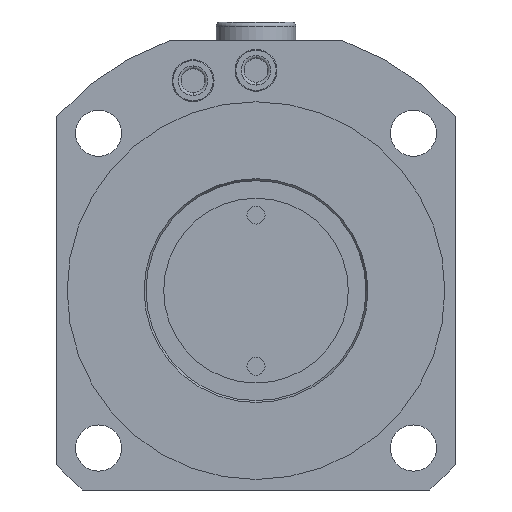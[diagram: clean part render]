
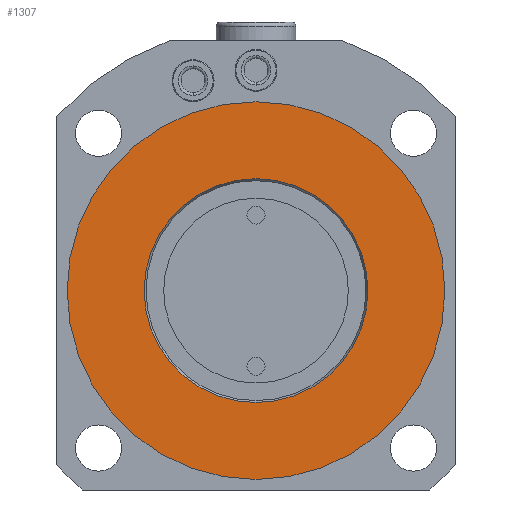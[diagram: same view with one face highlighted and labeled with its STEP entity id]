
A CAD part, front view. The second image highlights one B-rep face of the part: STEP entity #1307.
In plain terms, the highlighted planar face has unit normal (0, -1, 0).
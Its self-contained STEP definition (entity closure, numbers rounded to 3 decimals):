
#1035=PLANE('',#4392);
#1104=FACE_BOUND('',#1799,.T.);
#1105=FACE_BOUND('',#1800,.T.);
#1307=ADVANCED_FACE('',(#1104,#1105),#1035,.T.);
#1799=EDGE_LOOP('',(#2846,#2847));
#1800=EDGE_LOOP('',(#2848,#2849));
#2846=ORIENTED_EDGE('',*,*,#3659,.T.);
#2847=ORIENTED_EDGE('',*,*,#3755,.T.);
#2848=ORIENTED_EDGE('',*,*,#3653,.F.);
#2849=ORIENTED_EDGE('',*,*,#3756,.F.);
#3303=VERTEX_POINT('',#6272);
#3304=VERTEX_POINT('',#6273);
#3309=VERTEX_POINT('',#6284);
#3310=VERTEX_POINT('',#6286);
#3653=EDGE_CURVE('',#3303,#3304,#3966,.T.);
#3659=EDGE_CURVE('',#3310,#3309,#3969,.T.);
#3755=EDGE_CURVE('',#3309,#3310,#4017,.T.);
#3756=EDGE_CURVE('',#3304,#3303,#4018,.T.);
#3966=CIRCLE('',#4305,45.);
#3969=CIRCLE('',#4309,26.662);
#4017=CIRCLE('',#4389,26.662);
#4018=CIRCLE('',#4391,45.);
#4305=AXIS2_PLACEMENT_3D('',#6271,#5101,#5102);
#4309=AXIS2_PLACEMENT_3D('',#6285,#5112,#5113);
#4389=AXIS2_PLACEMENT_3D('',#6590,#5305,#5306);
#4391=AXIS2_PLACEMENT_3D('',#6592,#5309,#5310);
#4392=AXIS2_PLACEMENT_3D('',#6593,#5311,#5312);
#5101=DIRECTION('',(0.,1.,0.));
#5102=DIRECTION('',(-1.,0.,0.));
#5112=DIRECTION('',(0.,1.,0.));
#5113=DIRECTION('',(-1.,0.,0.));
#5305=DIRECTION('',(0.,1.,0.));
#5306=DIRECTION('',(-1.,0.,0.));
#5309=DIRECTION('',(0.,1.,0.));
#5310=DIRECTION('',(-1.,0.,0.));
#5311=DIRECTION('',(0.,-1.,0.));
#5312=DIRECTION('',(-1.,0.,0.));
#6271=CARTESIAN_POINT('',(0.,-128.,0.));
#6272=CARTESIAN_POINT('',(-45.,-128.,0.));
#6273=CARTESIAN_POINT('',(45.,-128.,0.));
#6284=CARTESIAN_POINT('',(-26.662,-128.,0.));
#6285=CARTESIAN_POINT('',(0.,-128.,0.));
#6286=CARTESIAN_POINT('',(26.662,-128.,0.));
#6590=CARTESIAN_POINT('',(0.,-128.,0.));
#6592=CARTESIAN_POINT('',(0.,-128.,0.));
#6593=CARTESIAN_POINT('',(-26.662,-128.,0.));
